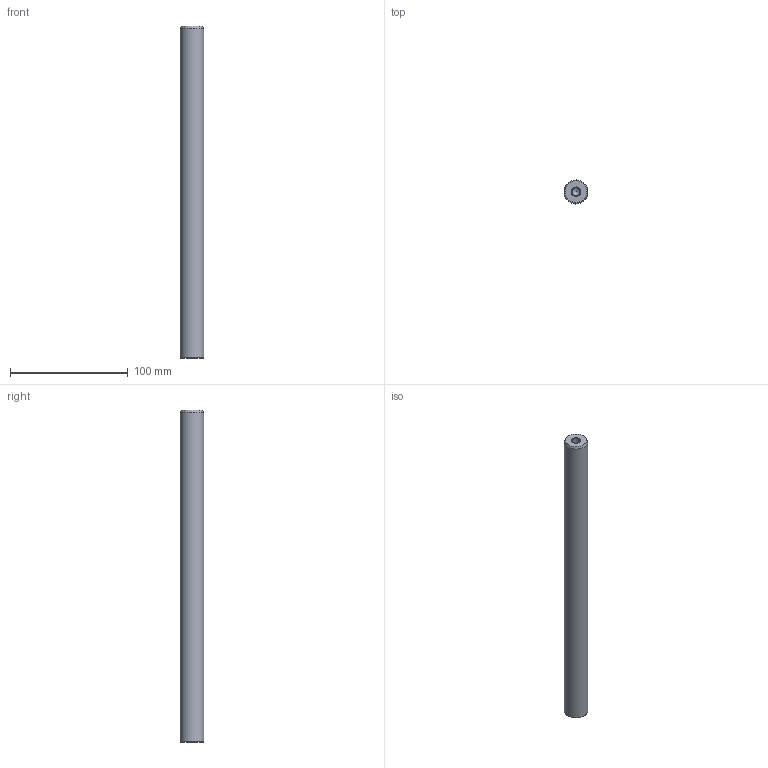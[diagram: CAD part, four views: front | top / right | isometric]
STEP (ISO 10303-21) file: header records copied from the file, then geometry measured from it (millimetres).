
FILE_DESCRIPTION( ( 'STEP AP214' ), '1' );
FILE_NAME( 'U:/Etudes/Top Solid/BIBLIO_Fournisseur/Colonnes UG/Ø20x282.step', '2004-12-22T12:40:16', ( ' ' ), ( ' ' ), 'XStep 1.0', ' ', ' ' );
FILE_SCHEMA( ( 'automotive_design' ) );
Length unit declared in the file: metre
Products named in the file (1): 1
Bounding box: 20 x 20 x 282 mm (x, y, z)
Volume: 87022.9 mm3; surface area: 19163.1 mm2
Topology: 1 solids, 1 shells, 13 faces, 27 edges, 16 vertices
Faces by surface type: cone 6, cylinder 5, plane 2
Full cylindrical faces by diameter (mm): 6.647 x4, 20 x1
Entity records: 382 total; most frequent: DIRECTION 52, CARTESIAN_POINT 40, AXIS2_PLACEMENT_3D 26, EDGE_LOOP 24, ORIENTED_EDGE 24, FACE_OUTER_BOUND 18, VERTEX_POINT 14, STYLED_ITEM 13
